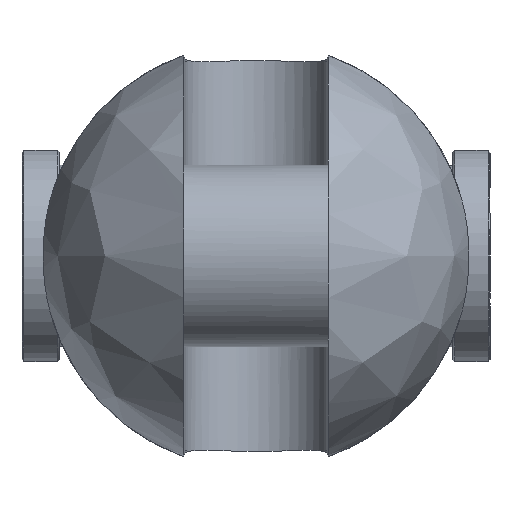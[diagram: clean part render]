
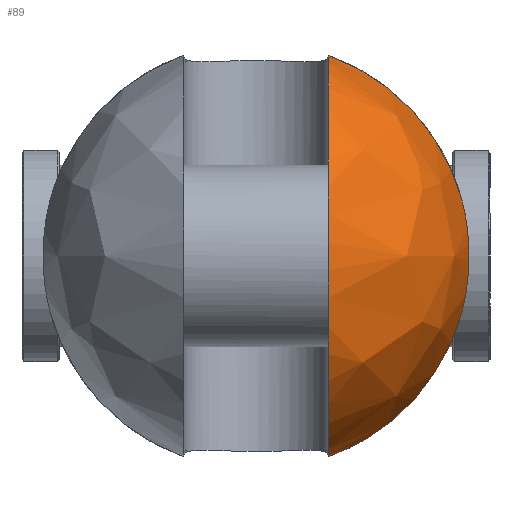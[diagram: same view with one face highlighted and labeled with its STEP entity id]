
A CAD part, left-side view. The second image highlights one B-rep face of the part: STEP entity #89.
In plain terms, the highlighted free-form (B-spline) face has degree [2, 2] with [9, 5] control points.
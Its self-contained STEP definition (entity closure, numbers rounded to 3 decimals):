
#89=ADVANCED_FACE('',(#164),#1306,.T.);
#164=FACE_OUTER_BOUND('',#249,.T.);
#249=EDGE_LOOP('',(#583,#584,#585,#586));
#583=ORIENTED_EDGE('',*,*,#811,.T.);
#584=ORIENTED_EDGE('',*,*,#835,.F.);
#585=ORIENTED_EDGE('',*,*,#847,.T.);
#586=ORIENTED_EDGE('',*,*,#827,.F.);
#811=EDGE_CURVE('',#1192,#1191,#1045,.T.);
#827=EDGE_CURVE('',#1192,#1204,#1055,.T.);
#835=EDGE_CURVE('',#1211,#1191,#1056,.T.);
#847=EDGE_CURVE('',#1211,#1204,#963,.T.);
#963=B_SPLINE_CURVE_WITH_KNOTS('',3,(#3152,#3153,#3154,#3155,#3156,#3157,
#3158,#3159,#3160,#3161,#3162,#3163,#3164,#3165),.UNSPECIFIED.,.F.,.F.,
(4,2,2,2,2,2,4),(0.,3.534,9.621,15.707,
21.793,27.879,31.414),.UNSPECIFIED.);
#1045=(
BOUNDED_CURVE()
B_SPLINE_CURVE(2,(#2920,#2921,#2922,#2923,#2924),.UNSPECIFIED.,.F.,.F.)
B_SPLINE_CURVE_WITH_KNOTS((3,2,3),(-169.937,-84.968,
0.),.UNSPECIFIED.)
CURVE()
GEOMETRIC_REPRESENTATION_ITEM()
RATIONAL_B_SPLINE_CURVE((1.,0.707,1.,0.707,1.))
REPRESENTATION_ITEM('')
);
#1055=(
BOUNDED_CURVE()
B_SPLINE_CURVE(2,(#3022,#3023,#3024),.UNSPECIFIED.,.F.,.F.)
B_SPLINE_CURVE_WITH_KNOTS((3,3),(0.,55.424),.UNSPECIFIED.)
CURVE()
GEOMETRIC_REPRESENTATION_ITEM()
RATIONAL_B_SPLINE_CURVE((1.,0.886,1.))
REPRESENTATION_ITEM('')
);
#1056=(
BOUNDED_CURVE()
B_SPLINE_CURVE(2,(#3079,#3080,#3081),.UNSPECIFIED.,.F.,.F.)
B_SPLINE_CURVE_WITH_KNOTS((3,3),(0.,55.424),.UNSPECIFIED.)
CURVE()
GEOMETRIC_REPRESENTATION_ITEM()
RATIONAL_B_SPLINE_CURVE((1.,0.886,1.))
REPRESENTATION_ITEM('')
);
#1191=VERTEX_POINT('',#2837);
#1192=VERTEX_POINT('',#2838);
#1204=VERTEX_POINT('',#2850);
#1211=VERTEX_POINT('',#2857);
#1306=(
BOUNDED_SURFACE()
B_SPLINE_SURFACE(2,2,((#2445,#2446,#2447,#2448,#2449),(#2450,#2451,#2452,
#2453,#2454),(#2455,#2456,#2457,#2458,#2459),(#2460,#2461,#2462,#2463,#2464),
(#2465,#2466,#2467,#2468,#2469),(#2470,#2471,#2472,#2473,#2474),(#2475,
#2476,#2477,#2478,#2479),(#2480,#2481,#2482,#2483,#2484),(#2485,#2486,#2487,
#2488,#2489)),.UNSPECIFIED.,.T.,.F.,.F.)
B_SPLINE_SURFACE_WITH_KNOTS((3,2,2,2,3),(3,2,3),(0.,90.321,180.642,
270.962,361.283),(0.,90.321,180.642),
 .UNSPECIFIED.)
GEOMETRIC_REPRESENTATION_ITEM()
RATIONAL_B_SPLINE_SURFACE(((1.,0.707,1.,0.707,1.),
(0.707,0.5,0.707,0.5,0.707),(1.,0.707,
1.,0.707,1.),(0.707,0.5,0.707,0.5,0.707),
(1.,0.707,1.,0.707,1.),(0.707,0.5,0.707,
0.5,0.707),(1.,0.707,1.,0.707,1.),(0.707,
0.5,0.707,0.5,0.707),(1.,0.707,1.,0.707,
1.)))
REPRESENTATION_ITEM('')
SURFACE()
);
#2445=CARTESIAN_POINT('',(-83.,0.,0.));
#2446=CARTESIAN_POINT('',(-83.,57.5,0.));
#2447=CARTESIAN_POINT('',(-25.5,57.5,0.));
#2448=CARTESIAN_POINT('',(32.,57.5,0.));
#2449=CARTESIAN_POINT('',(32.,0.,0.));
#2450=CARTESIAN_POINT('',(-83.,0.,0.));
#2451=CARTESIAN_POINT('',(-83.,57.5,57.5));
#2452=CARTESIAN_POINT('',(-25.5,57.5,57.5));
#2453=CARTESIAN_POINT('',(32.,57.5,57.5));
#2454=CARTESIAN_POINT('',(32.,0.,0.));
#2455=CARTESIAN_POINT('',(-83.,0.,0.));
#2456=CARTESIAN_POINT('',(-83.,0.,57.5));
#2457=CARTESIAN_POINT('',(-25.5,0.,57.5));
#2458=CARTESIAN_POINT('',(32.,0.,57.5));
#2459=CARTESIAN_POINT('',(32.,0.,0.));
#2460=CARTESIAN_POINT('',(-83.,0.,0.));
#2461=CARTESIAN_POINT('',(-83.,-57.5,57.5));
#2462=CARTESIAN_POINT('',(-25.5,-57.5,57.5));
#2463=CARTESIAN_POINT('',(32.,-57.5,57.5));
#2464=CARTESIAN_POINT('',(32.,0.,0.));
#2465=CARTESIAN_POINT('',(-83.,0.,0.));
#2466=CARTESIAN_POINT('',(-83.,-57.5,0.));
#2467=CARTESIAN_POINT('',(-25.5,-57.5,0.));
#2468=CARTESIAN_POINT('',(32.,-57.5,0.));
#2469=CARTESIAN_POINT('',(32.,0.,0.));
#2470=CARTESIAN_POINT('',(-83.,0.,0.));
#2471=CARTESIAN_POINT('',(-83.,-57.5,-57.5));
#2472=CARTESIAN_POINT('',(-25.5,-57.5,-57.5));
#2473=CARTESIAN_POINT('',(32.,-57.5,-57.5));
#2474=CARTESIAN_POINT('',(32.,0.,0.));
#2475=CARTESIAN_POINT('',(-83.,0.,0.));
#2476=CARTESIAN_POINT('',(-83.,0.,-57.5));
#2477=CARTESIAN_POINT('',(-25.5,0.,-57.5));
#2478=CARTESIAN_POINT('',(32.,0.,-57.5));
#2479=CARTESIAN_POINT('',(32.,0.,0.));
#2480=CARTESIAN_POINT('',(-83.,0.,0.));
#2481=CARTESIAN_POINT('',(-83.,57.5,-57.5));
#2482=CARTESIAN_POINT('',(-25.5,57.5,-57.5));
#2483=CARTESIAN_POINT('',(32.,57.5,-57.5));
#2484=CARTESIAN_POINT('',(32.,0.,0.));
#2485=CARTESIAN_POINT('',(-83.,0.,0.));
#2486=CARTESIAN_POINT('',(-83.,57.5,0.));
#2487=CARTESIAN_POINT('',(-25.5,57.5,0.));
#2488=CARTESIAN_POINT('',(32.,57.5,0.));
#2489=CARTESIAN_POINT('',(32.,0.,0.));
#2837=CARTESIAN_POINT('',(-25.5,-19.5,-54.093));
#2838=CARTESIAN_POINT('',(-25.5,-19.5,54.093));
#2850=CARTESIAN_POINT('',(-25.5,-55.554,14.832));
#2857=CARTESIAN_POINT('',(-25.5,-55.554,-14.832));
#2920=CARTESIAN_POINT('',(-25.5,-19.5,54.093));
#2921=CARTESIAN_POINT('',(-79.593,-19.5,54.093));
#2922=CARTESIAN_POINT('',(-79.593,-19.5,0.));
#2923=CARTESIAN_POINT('',(-79.593,-19.5,-54.093));
#2924=CARTESIAN_POINT('',(-25.5,-19.5,-54.093));
#3022=CARTESIAN_POINT('',(-25.5,-19.5,54.093));
#3023=CARTESIAN_POINT('',(-25.5,-47.795,43.892));
#3024=CARTESIAN_POINT('',(-25.5,-55.554,14.832));
#3079=CARTESIAN_POINT('',(-25.5,-55.554,-14.832));
#3080=CARTESIAN_POINT('',(-25.5,-47.795,-43.892));
#3081=CARTESIAN_POINT('',(-25.5,-19.5,-54.093));
#3152=CARTESIAN_POINT('',(-25.5,-55.554,-14.832));
#3153=CARTESIAN_POINT('',(-26.083,-55.822,-13.83));
#3154=CARTESIAN_POINT('',(-26.612,-56.062,-12.784));
#3155=CARTESIAN_POINT('',(-27.879,-56.637,-9.853));
#3156=CARTESIAN_POINT('',(-28.494,-56.912,-7.902));
#3157=CARTESIAN_POINT('',(-29.304,-57.274,-3.948));
#3158=CARTESIAN_POINT('',(-29.5,-57.361,-1.946));
#3159=CARTESIAN_POINT('',(-29.5,-57.361,1.946));
#3160=CARTESIAN_POINT('',(-29.304,-57.274,3.948));
#3161=CARTESIAN_POINT('',(-28.494,-56.912,7.902));
#3162=CARTESIAN_POINT('',(-27.879,-56.637,9.853));
#3163=CARTESIAN_POINT('',(-26.612,-56.062,12.784));
#3164=CARTESIAN_POINT('',(-26.083,-55.822,13.83));
#3165=CARTESIAN_POINT('',(-25.5,-55.554,14.832));
